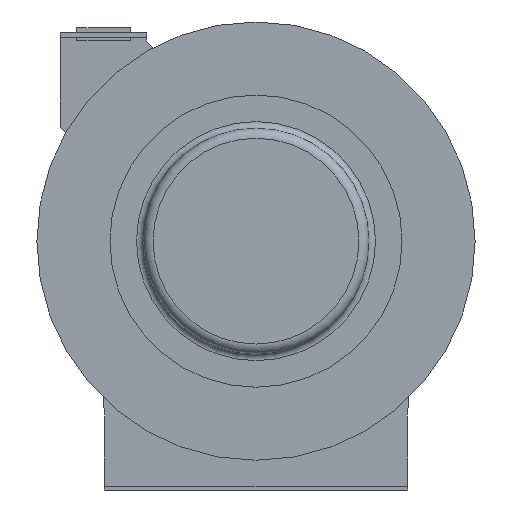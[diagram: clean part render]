
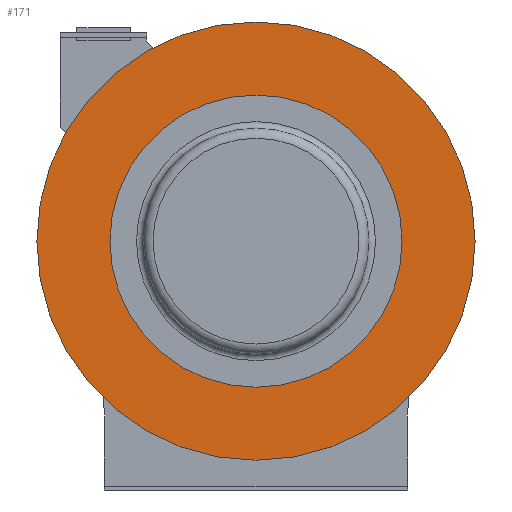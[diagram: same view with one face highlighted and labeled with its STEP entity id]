
A CAD part, front view. The second image highlights one B-rep face of the part: STEP entity #171.
In plain terms, the highlighted planar face has unit normal (0, -1, 0).
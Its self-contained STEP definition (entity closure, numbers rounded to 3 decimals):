
#171 = ADVANCED_FACE( '', ( #424, #425 ), #426, .F. );
#424 = FACE_BOUND( '', #786, .T. );
#425 = FACE_OUTER_BOUND( '', #787, .T. );
#426 = PLANE( '', #788 );
#786 = EDGE_LOOP( '', ( #1229 ) );
#787 = EDGE_LOOP( '', ( #1230 ) );
#788 = AXIS2_PLACEMENT_3D( '', #1231, #1232, #1233 );
#1229 = ORIENTED_EDGE( '', *, *, #1961, .T. );
#1230 = ORIENTED_EDGE( '', *, *, #1924, .T. );
#1231 = CARTESIAN_POINT( '', ( 0., -135.857, 209.55 ) );
#1232 = DIRECTION( '', ( 0., 1., 0. ) );
#1233 = DIRECTION( '', ( 0., 0., 1. ) );
#1924 = EDGE_CURVE( '', #2265, #2265, #2266, .T. );
#1961 = EDGE_CURVE( '', #2326, #2326, #2327, .T. );
#2265 = VERTEX_POINT( '', #2741 );
#2266 = CIRCLE( '', #2742, 209.55 );
#2326 = VERTEX_POINT( '', #2922 );
#2327 = CIRCLE( '', #2923, 139.7 );
#2741 = CARTESIAN_POINT( '', ( 0., -135.857, -209.55 ) );
#2742 = AXIS2_PLACEMENT_3D( '', #3431, #3432, #3433 );
#2922 = CARTESIAN_POINT( '', ( 139.7, -135.857, 0. ) );
#2923 = AXIS2_PLACEMENT_3D( '', #3471, #3472, #3473 );
#3431 = CARTESIAN_POINT( '', ( 0., -135.857, 0. ) );
#3432 = DIRECTION( '', ( 0., -1., 0. ) );
#3433 = DIRECTION( '', ( 0., 0., -1. ) );
#3471 = CARTESIAN_POINT( '', ( 0., -135.857, 0. ) );
#3472 = DIRECTION( '', ( 0., 1., 0. ) );
#3473 = DIRECTION( '', ( 1., 0., 0. ) );
